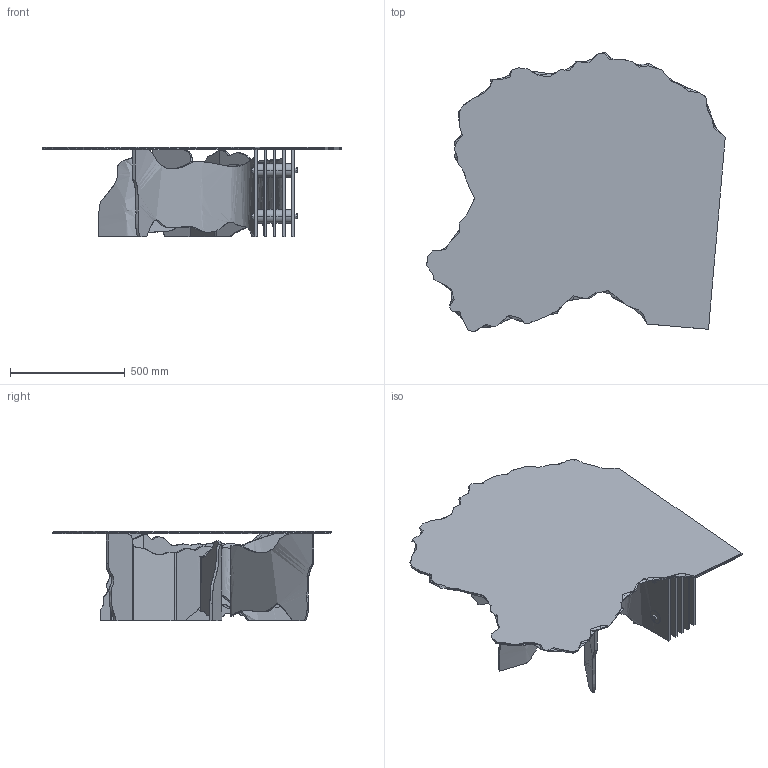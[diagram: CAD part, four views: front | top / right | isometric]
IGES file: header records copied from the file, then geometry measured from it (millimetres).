
Global section: file name: C:\Users\l.marzoli\Desktop\3D_Shell_coffee-table.igs; native system: Rhinoceros ( Aug 11 2021 ); preprocessor: Trout Lake IGES 012 Aug 11 2021; date: 240116.095855; units: millimetre
Bounding box: 1302.16 x 1220 x 392 mm (x, y, z)
Surface area: 5608613.6 mm2 (no closed solid volume)
Topology: 0 solids, 0 shells, 411 faces, 2787 edges, 2763 vertices
Faces by surface type: bspline 411
